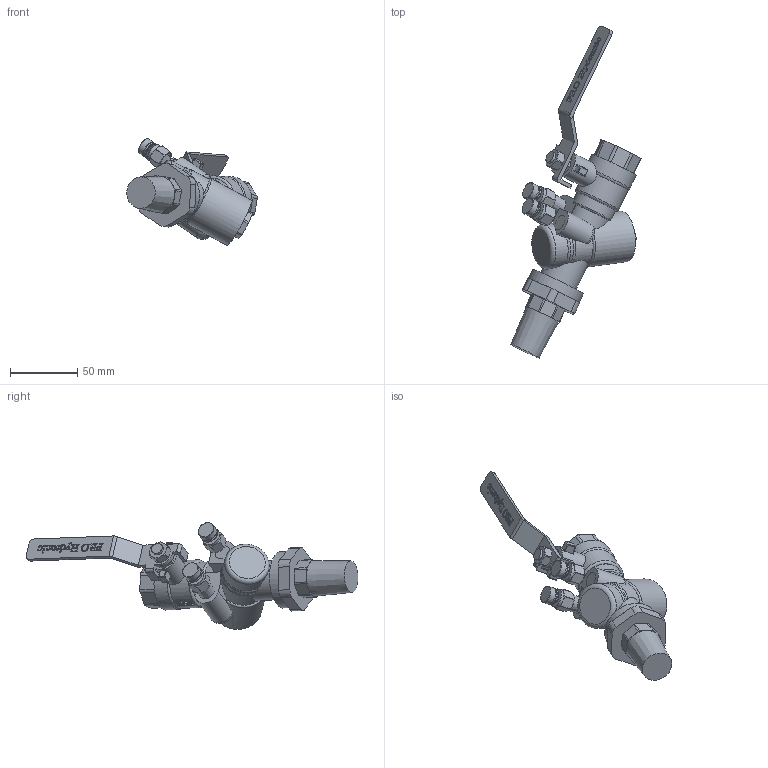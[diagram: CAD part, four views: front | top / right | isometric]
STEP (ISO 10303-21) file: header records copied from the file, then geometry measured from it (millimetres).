
FILE_DESCRIPTION(/* description */ (''),/* implementation_level */ '2;1');
FILE_NAME(/* name */ 'C:\Users\acc1\OneDrive\Desktop\STP and DWG files\AFLI\AFLI2_STEP.stp',/* time_stamp */ '2021-07-22T10:14:56-05:00',/* author */ ('acc1'),/* organization */ (''),/* preprocessor_version */ 'ST-DEVELOPER v18.1',/* originating_system */ 'Autodesk Inventor 2022',/* authorisation */ '');
FILE_SCHEMA (('AUTOMOTIVE_DESIGN { 1 0 10303 214 3 1 1 }'));
Length unit declared in the file: inch
Products named in the file (1): AFLI2_Assembly_Simplify_1
Bounding box: 97.17 x 247.07 x 79.41 mm (x, y, z)
Volume: 214397.6 mm3; surface area: 38222 mm2
Topology: 4 solids, 4 shells, 694 faces, 1848 edges, 1209 vertices
Faces by surface type: plane 318, bspline 210, cylinder 112, cone 29, torus 17, sphere 8
Full cylindrical faces by diameter (mm): 6.894 x2, 8.656 x1, 10.82 x1, 11.125 x2, 12.7 x4, 13.716 x2, 19.05 x1, 29.21 x1, 31.75 x1, 33.39 x1, 35.56 x1, 36.83 x1, 38.1 x1, 41.91 x1
Entity records: 24596 total; most frequent: CARTESIAN_POINT 8104, ORIENTED_EDGE 3696, DIRECTION 2545, EDGE_CURVE 1848, VERTEX_POINT 1209, LINE 977, VECTOR 977, AXIS2_PLACEMENT_3D 784
